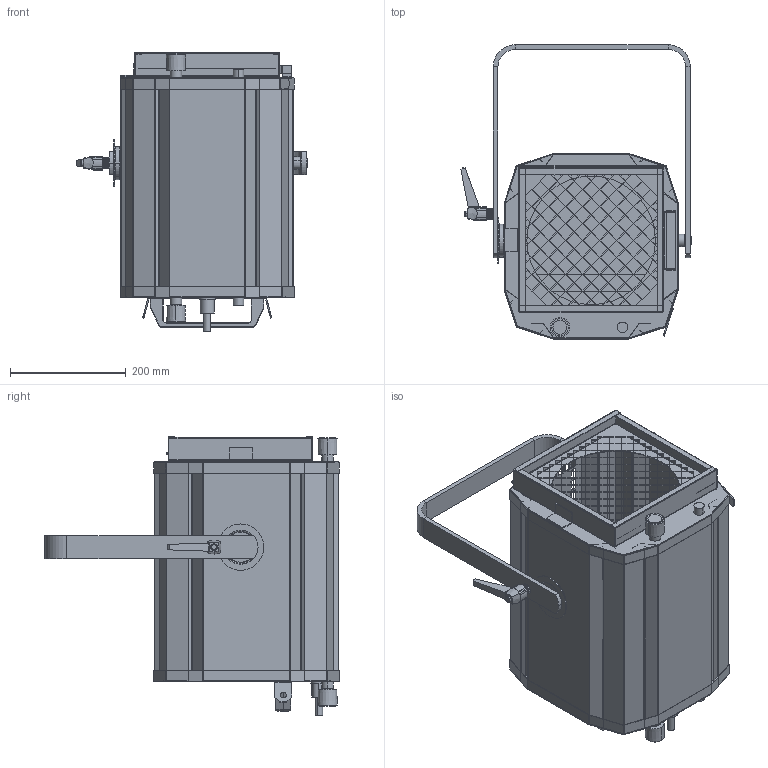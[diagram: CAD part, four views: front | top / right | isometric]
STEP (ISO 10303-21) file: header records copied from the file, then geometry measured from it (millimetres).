
FILE_DESCRIPTION (( 'STEP AP203' ), '1' );
FILE_NAME ('#_210655 329 HPB.STEP', '2017-12-04T07:36:21', ( '' ), ( '' ), 'SwSTEP 2.0', 'SolidWorks 2017', '' );
FILE_SCHEMA (( 'CONFIG_CONTROL_DESIGN' ));
Length unit declared in the file: millimetre
Products named in the file (1): #_210655 329 HPB
Bounding box: 397.5 x 508 x 481.8 mm (x, y, z)
Surface area: 1759088.6 mm2 (no closed solid volume)
Topology: 0 solids, 35 shells, 1630 faces, 4142 edges, 2596 vertices
Faces by surface type: plane 1279, cylinder 261, cone 56, bspline 26, torus 8
Entity records: 49554 total; most frequent: CARTESIAN_POINT 9782, ORIENTED_EDGE 8276, DIRECTION 7706, EDGE_CURVE 4142, VECTOR 3398, LINE 3398, VERTEX_POINT 2596, AXIS2_PLACEMENT_3D 2154
